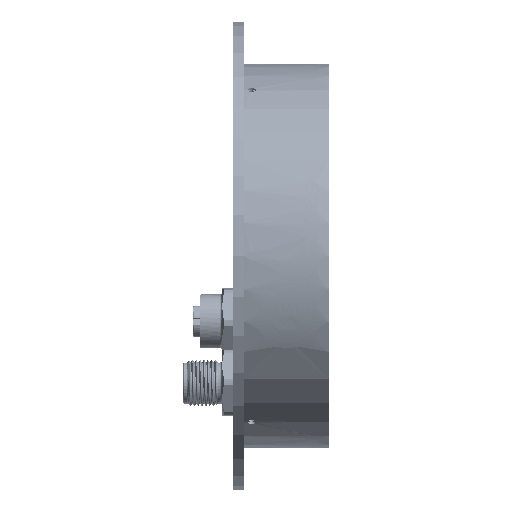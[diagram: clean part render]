
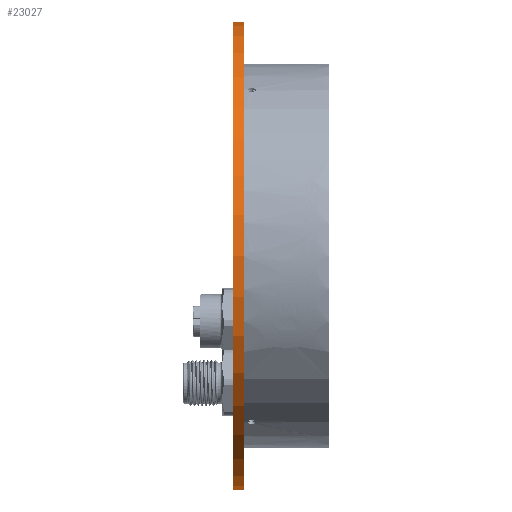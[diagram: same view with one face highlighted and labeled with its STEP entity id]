
A CAD part, front view. The second image highlights one B-rep face of the part: STEP entity #23027.
In plain terms, the highlighted cylindrical face has radius 61 mm (diameter 122 mm), a partial arc.
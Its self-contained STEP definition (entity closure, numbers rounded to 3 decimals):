
#9026 = ORIENTED_EDGE ( 'NONE', *, *, #245208, .T. ) ;
#18659 = EDGE_LOOP ( 'NONE', ( #144376, #228116, #9026, #304212 ) ) ;
#23027 = ADVANCED_FACE ( 'NONE', ( #244676 ), #294991, .T. ) ;
#32374 = VECTOR ( 'NONE', #312492, 1000. ) ;
#36938 = CARTESIAN_POINT ( 'NONE',  ( 0., 0., -61. ) ) ;
#37514 = DIRECTION ( 'NONE',  ( 0., 0., -1. ) ) ;
#48001 = DIRECTION ( 'NONE',  ( 0., 0., -1. ) ) ;
#60766 = LINE ( 'NONE', #138700, #32374 ) ;
#71915 = CARTESIAN_POINT ( 'NONE',  ( 63.419, 0., -61. ) ) ;
#77783 = CARTESIAN_POINT ( 'NONE',  ( -3., 0., 61. ) ) ;
#78805 = DIRECTION ( 'NONE',  ( 1., 0., 0. ) ) ;
#79991 = AXIS2_PLACEMENT_3D ( 'NONE', #299801, #78805, #48001 ) ;
#93720 = VERTEX_POINT ( 'NONE', #77783 ) ;
#110232 = EDGE_CURVE ( 'NONE', #93720, #163298, #197975, .T. ) ;
#138700 = CARTESIAN_POINT ( 'NONE',  ( 63.419, 0., 61. ) ) ;
#140701 = VERTEX_POINT ( 'NONE', #36938 ) ;
#144376 = ORIENTED_EDGE ( 'NONE', *, *, #311351, .F. ) ;
#146026 = AXIS2_PLACEMENT_3D ( 'NONE', #231000, #260125, #37514 ) ;
#163298 = VERTEX_POINT ( 'NONE', #296025 ) ;
#167464 = CIRCLE ( 'NONE', #250538, 61. ) ;
#183365 = VECTOR ( 'NONE', #318907, 1000. ) ;
#197975 = CIRCLE ( 'NONE', #146026, 61. ) ;
#202396 = CARTESIAN_POINT ( 'NONE',  ( 0., 0., 0. ) ) ;
#220577 = VERTEX_POINT ( 'NONE', #223812 ) ;
#223812 = CARTESIAN_POINT ( 'NONE',  ( 0., 0., 61. ) ) ;
#228116 = ORIENTED_EDGE ( 'NONE', *, *, #110232, .T. ) ;
#231000 = CARTESIAN_POINT ( 'NONE',  ( -3., 0., 0. ) ) ;
#244676 = FACE_OUTER_BOUND ( 'NONE', #18659, .T. ) ;
#245208 = EDGE_CURVE ( 'NONE', #163298, #140701, #296110, .T. ) ;
#247994 = DIRECTION ( 'NONE',  ( 0., 0., -1. ) ) ;
#249574 = DIRECTION ( 'NONE',  ( 1., 0., 0. ) ) ;
#250538 = AXIS2_PLACEMENT_3D ( 'NONE', #202396, #249574, #247994 ) ;
#260125 = DIRECTION ( 'NONE',  ( 1., 0., 0. ) ) ;
#285087 = EDGE_CURVE ( 'NONE', #220577, #140701, #167464, .T. ) ;
#294991 = CYLINDRICAL_SURFACE ( 'NONE', #79991, 61. ) ;
#296025 = CARTESIAN_POINT ( 'NONE',  ( -3., 0., -61. ) ) ;
#296110 = LINE ( 'NONE', #71915, #183365 ) ;
#299801 = CARTESIAN_POINT ( 'NONE',  ( 63.419, 0., 0. ) ) ;
#304212 = ORIENTED_EDGE ( 'NONE', *, *, #285087, .F. ) ;
#311351 = EDGE_CURVE ( 'NONE', #93720, #220577, #60766, .T. ) ;
#312492 = DIRECTION ( 'NONE',  ( 1., 0., 0. ) ) ;
#318907 = DIRECTION ( 'NONE',  ( 1., 0., 0. ) ) ;
